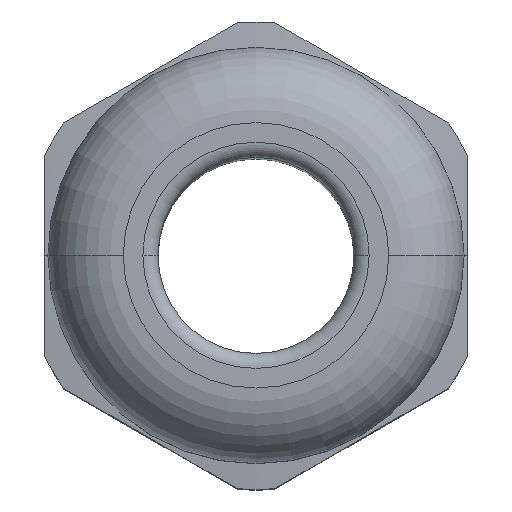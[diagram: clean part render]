
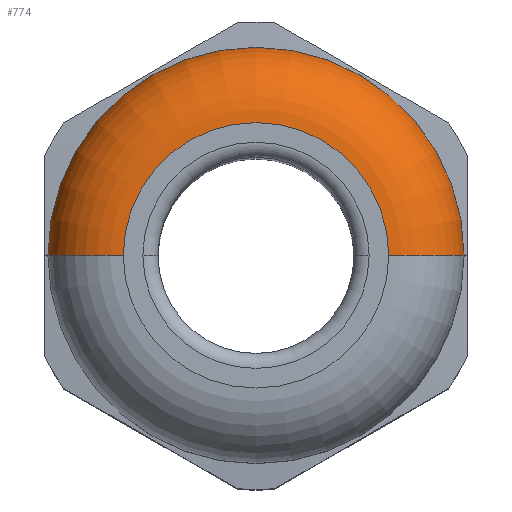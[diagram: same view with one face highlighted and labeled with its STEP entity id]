
A CAD part, top view. The second image highlights one B-rep face of the part: STEP entity #774.
In plain terms, the highlighted toroidal (fillet/blend) face has major radius 4.4 mm and minor radius 2.5 mm.
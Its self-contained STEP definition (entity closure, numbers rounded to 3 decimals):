
#701 = ORIENTED_EDGE ( 'NONE', *, *, #702, .T. ) ;
#702 = EDGE_CURVE ( 'NONE', #789, #703, #1639, .T. ) ;
#703 = VERTEX_POINT ( 'NONE', #1632 ) ;
#704 = EDGE_CURVE ( 'NONE', #705, #769, #1631, .T. ) ;
#705 = VERTEX_POINT ( 'NONE', #1626 ) ;
#706 = ORIENTED_EDGE ( 'NONE', *, *, #707, .F. ) ;
#707 = EDGE_CURVE ( 'NONE', #789, #705, #1625, .T. ) ;
#722 = EDGE_LOOP ( 'NONE', ( #701, #767, #770, #706 ) ) ;
#767 = ORIENTED_EDGE ( 'NONE', *, *, #768, .T. ) ;
#768 = EDGE_CURVE ( 'NONE', #703, #769, #1607, .T. ) ;
#769 = VERTEX_POINT ( 'NONE', #1602 ) ;
#770 = ORIENTED_EDGE ( 'NONE', *, *, #704, .F. ) ;
#774 = ADVANCED_FACE ( 'NONE', ( #1594 ), #1746, .T. ) ;
#789 = VERTEX_POINT ( 'NONE', #1659 ) ;
#1594 = FACE_OUTER_BOUND ( 'NONE', #722, .T. ) ;
#1602 = CARTESIAN_POINT ( 'NONE',  ( 6.9, 0., 31.5 ) ) ;
#1603 = DIRECTION ( 'NONE',  ( -1., 0., 0. ) ) ;
#1604 = DIRECTION ( 'NONE',  ( 0., 1., 0. ) ) ;
#1605 = CARTESIAN_POINT ( 'NONE',  ( 4.4, 0., 31.5 ) ) ;
#1606 = AXIS2_PLACEMENT_3D ( 'NONE', #1605, #1604, #1603 ) ;
#1607 = CIRCLE ( 'NONE', #1606, 2.5 ) ;
#1625 = CIRCLE ( 'NONE', #1786, 2.5 ) ;
#1626 = CARTESIAN_POINT ( 'NONE',  ( -6.9, 0., 31.5 ) ) ;
#1627 = DIRECTION ( 'NONE',  ( -1., 0., 0. ) ) ;
#1628 = DIRECTION ( 'NONE',  ( 0., 0., -1. ) ) ;
#1629 = CARTESIAN_POINT ( 'NONE',  ( 0., 0., 31.5 ) ) ;
#1630 = AXIS2_PLACEMENT_3D ( 'NONE', #1629, #1628, #1627 ) ;
#1631 = CIRCLE ( 'NONE', #1630, 6.9 ) ;
#1632 = CARTESIAN_POINT ( 'NONE',  ( 4.4, 0., 34. ) ) ;
#1633 = DIRECTION ( 'NONE',  ( -1., 0., 0. ) ) ;
#1636 = DIRECTION ( 'NONE',  ( 0., 0., -1. ) ) ;
#1637 = CARTESIAN_POINT ( 'NONE',  ( 0., 0., 34. ) ) ;
#1638 = AXIS2_PLACEMENT_3D ( 'NONE', #1637, #1636, #1633 ) ;
#1639 = CIRCLE ( 'NONE', #1638, 4.4 ) ;
#1659 = CARTESIAN_POINT ( 'NONE',  ( -4.4, 0., 34. ) ) ;
#1742 = DIRECTION ( 'NONE',  ( -1., 0., 0. ) ) ;
#1743 = DIRECTION ( 'NONE',  ( 0., 0., -1. ) ) ;
#1744 = CARTESIAN_POINT ( 'NONE',  ( 0., 0., 31.5 ) ) ;
#1745 = AXIS2_PLACEMENT_3D ( 'NONE', #1744, #1743, #1742 ) ;
#1746 = TOROIDAL_SURFACE ( 'NONE', #1745, 4.4, 2.5 ) ;
#1783 = DIRECTION ( 'NONE',  ( 0., 0., -1. ) ) ;
#1784 = DIRECTION ( 'NONE',  ( 0., -1., 0. ) ) ;
#1785 = CARTESIAN_POINT ( 'NONE',  ( -4.4, 0., 31.5 ) ) ;
#1786 = AXIS2_PLACEMENT_3D ( 'NONE', #1785, #1784, #1783 ) ;
